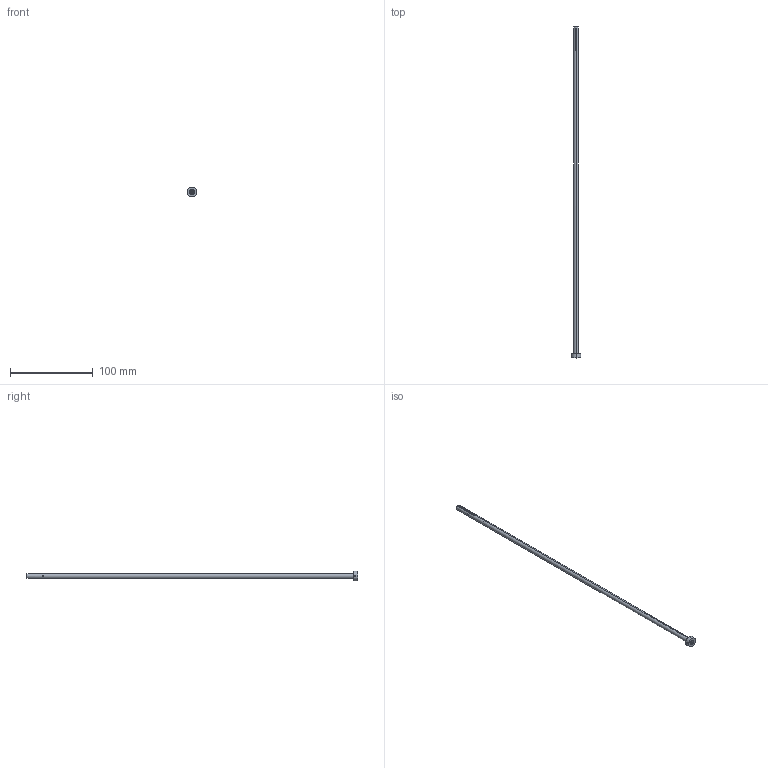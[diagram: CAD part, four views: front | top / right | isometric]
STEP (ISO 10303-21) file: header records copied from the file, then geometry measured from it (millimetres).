
FILE_DESCRIPTION (( 'STEP AP203' ), '1' );
FILE_NAME ('SGDE-607Cx400.STEP', '2017-01-10T15:40:02', ( 'Balzi' ), ( '' ), 'SwSTEP 2.0', 'SolidWorks 2016', '' );
FILE_SCHEMA (( 'CONFIG_CONTROL_DESIGN' ));
Length unit declared in the file: millimetre
Products named in the file (1): SGDE-607Cx400
Bounding box: 12 x 401.2 x 12 mm (x, y, z)
Volume: 6282.6 mm3; surface area: 13765.1 mm2
Topology: 1 solids, 1 shells, 86 faces, 238 edges, 156 vertices
Faces by surface type: cylinder 48, plane 32, cone 6
Entity records: 3363 total; most frequent: CARTESIAN_POINT 1085, ORIENTED_EDGE 476, DIRECTION 432, EDGE_CURVE 238, AXIS2_PLACEMENT_3D 159, VERTEX_POINT 156, LINE 114, VECTOR 114
